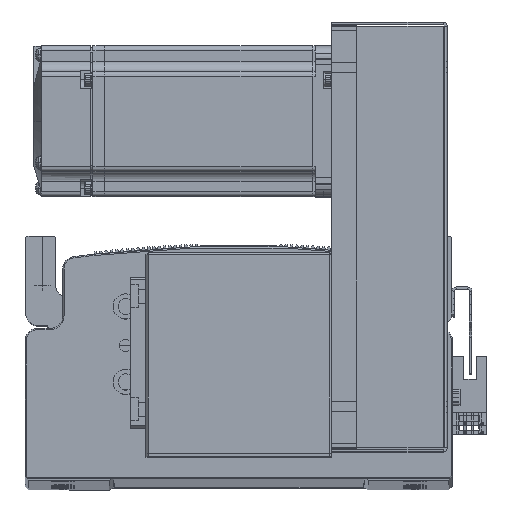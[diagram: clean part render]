
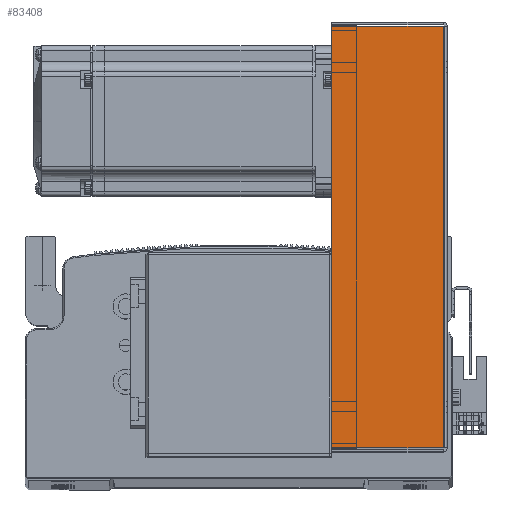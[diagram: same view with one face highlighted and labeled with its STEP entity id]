
A CAD part, top view. The second image highlights one B-rep face of the part: STEP entity #83408.
In plain terms, the highlighted planar face has unit normal (0, 0, 1).
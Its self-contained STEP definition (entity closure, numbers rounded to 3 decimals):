
#11497 = VERTEX_POINT ( 'NONE', #24217 ) ;
#11567 = VERTEX_POINT ( 'NONE', #24302 ) ;
#11570 = VERTEX_POINT ( 'NONE', #24297 ) ;
#11585 = VERTEX_POINT ( 'NONE', #24303 ) ;
#14538 = CARTESIAN_POINT ( 'NONE',  ( 0., 0., 40.5 ) ) ;
#14544 = DIRECTION ( 'NONE',  ( -1., 0., 0. ) ) ;
#14550 = DIRECTION ( 'NONE',  ( 0., 0., -1. ) ) ;
#14562 = PLANE ( 'NONE',  #82301 ) ;
#24217 = CARTESIAN_POINT ( 'NONE',  ( 83.793, 45., 40.5 ) ) ;
#24297 = CARTESIAN_POINT ( 'NONE',  ( -83.793, 0.737, 40.5 ) ) ;
#24302 = CARTESIAN_POINT ( 'NONE',  ( 83.793, 0.737, 40.5 ) ) ;
#24303 = CARTESIAN_POINT ( 'NONE',  ( -83.793, 45., 40.5 ) ) ;
#31770 = EDGE_CURVE ( 'NONE', #11570, #11585, #65407, .T. ) ;
#31775 = EDGE_CURVE ( 'NONE', #11497, #11585, #65539, .T. ) ;
#31779 = EDGE_CURVE ( 'NONE', #11567, #11570, #65575, .T. ) ;
#31780 = EDGE_CURVE ( 'NONE', #11567, #11497, #65541, .T. ) ;
#37385 = ORIENTED_EDGE ( 'NONE', *, *, #31780, .T. ) ;
#37506 = ORIENTED_EDGE ( 'NONE', *, *, #31775, .T. ) ;
#37523 = ORIENTED_EDGE ( 'NONE', *, *, #31779, .F. ) ;
#37536 = ORIENTED_EDGE ( 'NONE', *, *, #31770, .F. ) ;
#38053 = EDGE_LOOP ( 'NONE', ( #37523, #37385, #37506, #37536 ) ) ;
#41468 = FACE_OUTER_BOUND ( 'NONE', #38053, .T. ) ;
#55246 = CARTESIAN_POINT ( 'NONE',  ( -83.793, 0., 40.5 ) ) ;
#55266 = DIRECTION ( 'NONE',  ( 0., 1., 0. ) ) ;
#55276 = CARTESIAN_POINT ( 'NONE',  ( -84.5, 45., 40.5 ) ) ;
#55303 = DIRECTION ( 'NONE',  ( -1., 0., 0. ) ) ;
#55304 = DIRECTION ( 'NONE',  ( -1., 0., 0. ) ) ;
#55305 = DIRECTION ( 'NONE',  ( 0., 1., 0. ) ) ;
#55310 = CARTESIAN_POINT ( 'NONE',  ( 83.793, 0., 40.5 ) ) ;
#55324 = CARTESIAN_POINT ( 'NONE',  ( 0., 0.737, 40.5 ) ) ;
#65407 = LINE ( 'NONE', #55246, #65439 ) ;
#65439 = VECTOR ( 'NONE', #55266, 1000. ) ;
#65539 = LINE ( 'NONE', #55276, #65599 ) ;
#65541 = LINE ( 'NONE', #55310, #65601 ) ;
#65575 = LINE ( 'NONE', #55324, #65578 ) ;
#65578 = VECTOR ( 'NONE', #55303, 1000. ) ;
#65599 = VECTOR ( 'NONE', #55304, 1000. ) ;
#65601 = VECTOR ( 'NONE', #55305, 1000. ) ;
#82301 = AXIS2_PLACEMENT_3D ( 'NONE', #14538, #14550, #14544 ) ;
#83408 = ADVANCED_FACE ( 'NONE', ( #41468 ), #14562, .F. ) ;
